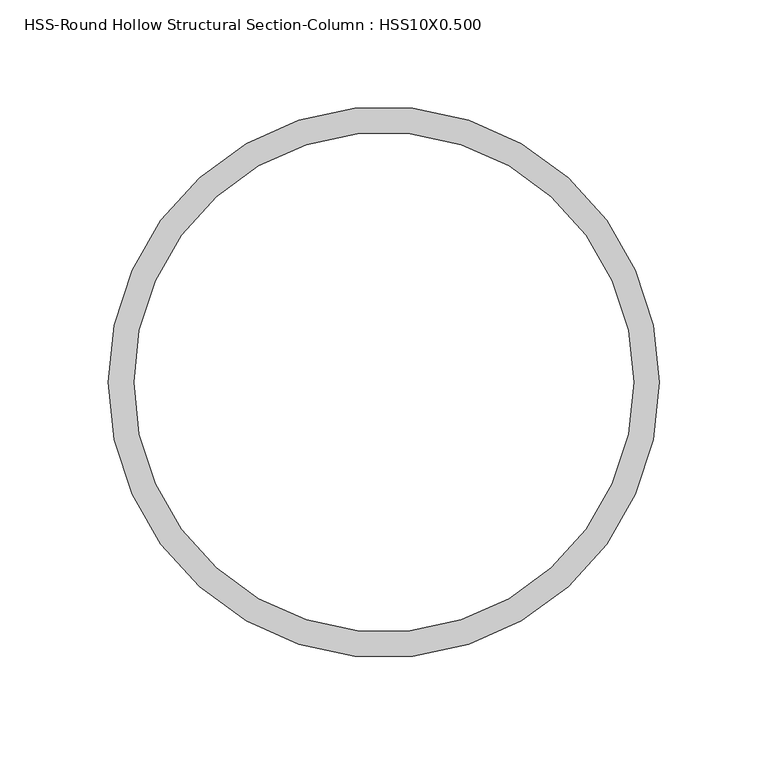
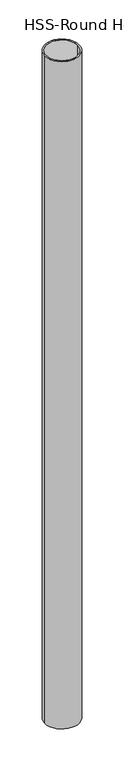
"""IFC4 building model written with IfcOpenShell, lengths in millimetres: column geometry, HSS-Round Hollow Structural Section-Column : HSS10X0.500."""

import ifcopenshell
import ifcopenshell.guid

model = None  # the IFC model being written
_history = None  # IfcOwnerHistory: only IFC2X3 demands one
_inside = {}  # id of a spatial element -> (the spatial element, [elements in it])
_under = {}  # id of a project, library or spatial element -> (it, [spatial elements below it])
_declared = {}  # id of a project -> (the project, [libraries it declares])
_typed = {}  # id of a type object -> (the type object, [elements of that type])
_made_of = {}  # id of a material, layer set ... -> (it, [elements and type objects made of it])


def new_model(schema):
    """Start an empty IFC model of exactly this schema.

    Asked for "IFC4X3", IfcOpenShell would pick the latest addendum, in which some entities
    have other attributes; the version numbers below select the first issue.
    IFC2X3 requires an IfcOwnerHistory on every rooted entity: one is made here for all.
    """
    global model, _history
    if schema == "IFC4X3":
        model = ifcopenshell.file(schema_version=(4, 3, 0, 0))
    else:
        model = ifcopenshell.file(schema=schema)
    _inside.clear()
    _under.clear()
    _declared.clear()
    _typed.clear()
    _made_of.clear()
    _history = None
    if model.schema == "IFC2X3":
        org = make("IfcOrganization", Name="unknown")
        user = make(
            "IfcPersonAndOrganization",
            ThePerson=make("IfcPerson", FamilyName="unknown"),
            TheOrganization=org,
        )
        app = make(
            "IfcApplication",
            ApplicationDeveloper=org,
            Version="unknown",
            ApplicationFullName="unknown",
            ApplicationIdentifier="unknown",
        )
        _history = make(
            "IfcOwnerHistory",
            OwningUser=user,
            OwningApplication=app,
            ChangeAction="ADDED",
            CreationDate=0,
        )
    return model


def make(cls, **values):
    """One entity of the class cls with the attributes given. An attribute that is None is left unset."""
    return model.create_entity(
        cls, **{name: value for name, value in values.items() if value is not None}
    )


def rooted(cls, **values):
    """An entity with a GlobalId (a new one), such as an element, a storey or a relation."""
    return make(cls, GlobalId=ifcopenshell.guid.new(), OwnerHistory=_history, **values)


def si_unit(unit_type, name, prefix=None):
    """IfcSIUnit, for example si_unit("LENGTHUNIT", "METRE", prefix="MILLI")."""
    return make("IfcSIUnit", UnitType=unit_type, Prefix=prefix, Name=name)


def assignment(units):
    """IfcUnitAssignment: the units of a project."""
    return None if units is None else make("IfcUnitAssignment", Units=units)


def point(xyz):
    """IfcCartesianPoint."""
    return None if xyz is None else make("IfcCartesianPoint", Coordinates=xyz)


def direction(xyz):
    """IfcDirection."""
    return None if xyz is None else make("IfcDirection", DirectionRatios=xyz)


def frame(location, z_axis=None, x_axis=None):
    """IfcAxis2Placement3D, a coordinate frame: its origin and axes. An axis left out is left unset."""
    return make(
        "IfcAxis2Placement3D",
        Location=point(location),
        Axis=direction(z_axis),
        RefDirection=direction(x_axis),
    )


def frame_2d(location, x_axis=None):
    """IfcAxis2Placement2D, a coordinate frame in the plane: its origin and x axis."""
    return make(
        "IfcAxis2Placement2D", Location=point(location), RefDirection=direction(x_axis)
    )


def origin():
    """The frame at (0, 0, 0) with its axes left unset."""
    return frame((0.0, 0.0, 0.0))


def origin_2d():
    """The frame at (0, 0) in the plane with its x axis left unset."""
    return frame_2d((0.0, 0.0))


def place(relative_to, where):
    """IfcLocalPlacement: puts the frame where relative to a parent placement (None: the world)."""
    return make(
        "IfcLocalPlacement", PlacementRelTo=relative_to, RelativePlacement=where
    )


def context(
    kind, dimensions, precision=None, world=None, true_north=None, identifier=None
):
    """IfcGeometricRepresentationContext, for example the 3D "Model" context."""
    return make(
        "IfcGeometricRepresentationContext",
        ContextIdentifier=identifier,
        ContextType=kind,
        CoordinateSpaceDimension=dimensions,
        Precision=precision,
        WorldCoordinateSystem=world,
        TrueNorth=true_north,
    )


def project(units=None, contexts=None):
    """IfcProject with its units and contexts."""
    return rooted(
        "IfcProject",
        Name="project",
        RepresentationContexts=contexts,
        UnitsInContext=assignment(units),
    )


def spatial(cls, under=None, at=None, **own):
    """A site, building, storey or space (cls), placed at a placement, below another one or the project."""
    s = rooted(cls, ObjectPlacement=at, **own)
    if under is not None:
        _under.setdefault(under.id(), (under, []))[1].append(s)
    return s


def circle_curve(where, radius):
    """IfcCircle in the frame where."""
    return make("IfcCircle", Position=where, Radius=radius)


def trimmed(basis, trim1, trim2, sense, master):
    """IfcTrimmedCurve: the piece of a basis curve between two trims."""
    return make(
        "IfcTrimmedCurve",
        BasisCurve=basis,
        Trim1=trim1,
        Trim2=trim2,
        SenseAgreement=sense,
        MasterRepresentation=master,
    )


def segment(curve, same_sense, transition):
    """IfcCompositeCurveSegment."""
    return make(
        "IfcCompositeCurveSegment",
        Transition=transition,
        SameSense=same_sense,
        ParentCurve=curve,
    )


def composite_curve(segments, self_intersect=None):
    """IfcCompositeCurve: segments joined end to end."""
    return make("IfcCompositeCurve", Segments=segments, SelfIntersect=self_intersect)


def outline(outer, holes=None, kind="AREA"):
    """IfcArbitraryClosedProfileDef: a profile drawn as a closed curve; with holes, ...WithVoids."""
    if holes is None:
        return make("IfcArbitraryClosedProfileDef", ProfileType=kind, OuterCurve=outer)
    return make(
        "IfcArbitraryProfileDefWithVoids",
        ProfileType=kind,
        OuterCurve=outer,
        InnerCurves=holes,
    )


def extrude(swept, where, along, depth):
    """IfcExtrudedAreaSolid: the profile swept, set in the frame where, extruded along a direction by depth."""
    return make(
        "IfcExtrudedAreaSolid",
        SweptArea=swept,
        Position=where,
        ExtrudedDirection=direction(along),
        Depth=depth,
    )


def shape(context_of_items, identifier, shape_type, items):
    """IfcShapeRepresentation: the items that make up one representation, for example the "Body"."""
    return make(
        "IfcShapeRepresentation",
        ContextOfItems=context_of_items,
        RepresentationIdentifier=identifier,
        RepresentationType=shape_type,
        Items=items,
    )


def source(mapping_origin, context_of_items, identifier, shape_type, items):
    """IfcRepresentationMap: a shape defined once, which mapped items show again and again."""
    return make(
        "IfcRepresentationMap",
        MappingOrigin=mapping_origin,
        MappedRepresentation=shape(context_of_items, identifier, shape_type, items),
    )


def transform(
    local_origin,
    x_axis=None,
    y_axis=None,
    z_axis=None,
    scale=None,
    scale2=None,
    scale3=None,
    uniform=True,
):
    """IfcCartesianTransformationOperator3D, or its non-uniform kind. x_axis, y_axis, z_axis: its Axis1, 2, 3."""
    if uniform:
        return make(
            "IfcCartesianTransformationOperator3D",
            Axis1=direction(x_axis),
            Axis2=direction(y_axis),
            LocalOrigin=point(local_origin),
            Scale=scale,
            Axis3=direction(z_axis),
        )
    return make(
        "IfcCartesianTransformationOperator3DnonUniform",
        Axis1=direction(x_axis),
        Axis2=direction(y_axis),
        LocalOrigin=point(local_origin),
        Scale=scale,
        Axis3=direction(z_axis),
        Scale2=scale2,
        Scale3=scale3,
    )


def mapped(mapping_source, mapping_target):
    """IfcMappedItem: shows the shape of a source again, moved by a transform."""
    return make(
        "IfcMappedItem", MappingSource=mapping_source, MappingTarget=mapping_target
    )


def made_of(thing, what):
    """Note that an element or type object is made of a material, layer set ...; save() writes the relation."""
    if what is not None:
        _made_of.setdefault(what.id(), (what, []))[1].append(thing)
    return thing


def element(
    cls,
    number,
    at=None,
    inside=None,
    cuts=None,
    type_object=None,
    material=None,
    context=None,
    identifier="Body",
    shape_type=None,
    held_by="IfcProductDefinitionShape",
    body=None,
    shapes=None,
    **own,
):
    """One element of the class cls, such as IfcWall. Its Tag is "e" and its number.

    at: its placement. inside: the storey or other place that contains it. cuts: it is an
    opening in that element (IfcRelVoidsElement). A single representation is given by context,
    identifier, shape_type and body (its items); several are given by shapes. held_by: the class
    of the entity that holds the representations. save() writes the other relations.
    """
    e = rooted(cls, Tag="e%d" % number, ObjectPlacement=at, **own)
    if body is not None:
        shapes = [shape(context, identifier, shape_type, body)]
    if shapes is not None:
        e.Representation = make(held_by, Representations=shapes)
    if inside is not None:
        _inside.setdefault(inside.id(), (inside, []))[1].append(e)
    if cuts is not None:
        rooted(
            "IfcRelVoidsElement", RelatingBuildingElement=cuts, RelatedOpeningElement=e
        )
    if type_object is not None:
        _typed.setdefault(type_object.id(), (type_object, []))[1].append(e)
    return made_of(e, material)


def aggregate(whole, parts):
    """IfcRelAggregates: a whole, such as a stair, and the parts it consists of."""
    return rooted("IfcRelAggregates", RelatingObject=whole, RelatedObjects=parts)


def save(model, path):
    """Write the relations noted so far, then the file.

    IfcRelAggregates (storeys below a building ...), IfcRelContainedInSpatialStructure (elements
    in a storey), IfcRelDefinesByType, IfcRelAssociatesMaterial and IfcRelDeclares: one each for
    every whole, place, type object, material and project.
    """
    for whole, parts in _under.values():
        aggregate(whole, parts)
    for where, things in _inside.values():
        rooted(
            "IfcRelContainedInSpatialStructure",
            RelatedElements=things,
            RelatingStructure=where,
        )
    for kind, things in _typed.values():
        rooted("IfcRelDefinesByType", RelatedObjects=things, RelatingType=kind)
    for what, things in _made_of.values():
        rooted("IfcRelAssociatesMaterial", RelatedObjects=things, RelatingMaterial=what)
    for by, libraries in _declared.values():
        rooted("IfcRelDeclares", RelatingContext=by, RelatedDefinitions=libraries)
    model.write(path)


def hss_round_hollow_structural_section_column_hss10x0_500_13b5c828(model_context):
    return source(origin(), model_context, "Body", "SweptSolid", [
        extrude(outline(composite_curve([segment(trimmed(circle_curve(origin_2d(), 127.0), [point((-127.0, 0.0))], [point((127.0, 0.0))], False, "CARTESIAN"), True, "CONTINUOUS"), segment(trimmed(circle_curve(origin_2d(), 127.0), [point((127.0, 0.0))], [point((-127.0, 0.0))], False, "CARTESIAN"), True, "CONTINUOUS")], self_intersect=False), holes=[composite_curve([segment(trimmed(circle_curve(origin_2d(), 115.189), [point((-115.189, 0.0))], [point((115.189, 0.0))], True, "CARTESIAN"), True, "CONTINUOUS"), segment(trimmed(circle_curve(origin_2d(), 115.189), [point((115.189, 0.0))], [point((-115.189, 0.0))], True, "CARTESIAN"), True, "CONTINUOUS")], self_intersect=False)]), frame((0.0, 0.0, 15113.0), z_axis=(0.0, 0.0, 1.0), x_axis=(1.0, 0.0, 0.0)), (0.0, 0.0, 1.0), 5232.4),
    ])


if __name__ == "__main__":
    model = new_model("IFC4")
    model_context = context("Model", 3, world=origin())
    ifc_project = project(units=[si_unit("LENGTHUNIT", "METRE", prefix="MILLI")], contexts=[model_context])
    site = spatial("IfcSite", under=ifc_project)
    building = spatial("IfcBuilding", under=site)
    placement = place(None, origin())
    hss_round_hollow_structural_section_column_hss10x0_500_shape = hss_round_hollow_structural_section_column_hss10x0_500_13b5c828(model_context)
    element("IfcColumn", 1, ObjectType="HSS-Round Hollow Structural Section-Column : HSS10X0.500", at=placement, inside=building, context=model_context, shape_type="MappedRepresentation", body=[
        mapped(hss_round_hollow_structural_section_column_hss10x0_500_shape, transform((0.0, 0.0, 0.0), x_axis=(1.0, 0.0, 0.0), y_axis=(0.0, 1.0, 0.0), z_axis=(0.0, 0.0, 1.0))),
    ])
    save(model, "model.ifc")
